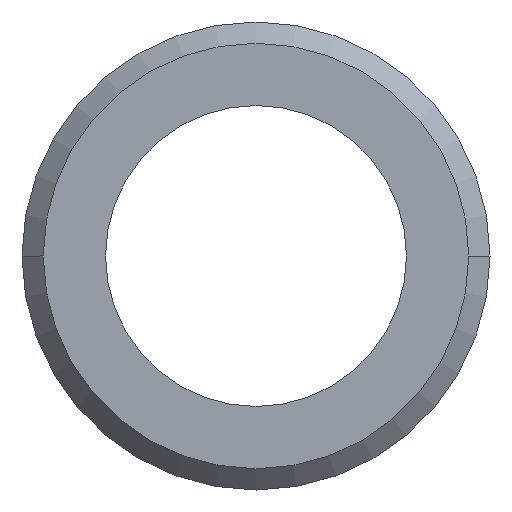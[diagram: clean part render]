
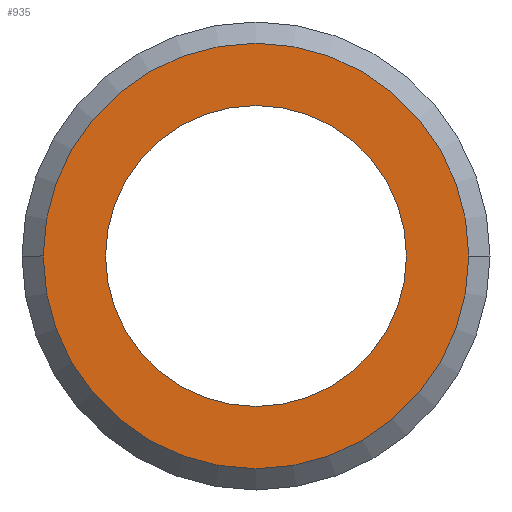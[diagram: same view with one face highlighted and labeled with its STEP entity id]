
A CAD part, left-side view. The second image highlights one B-rep face of the part: STEP entity #935.
In plain terms, the highlighted planar face has unit normal (-1, 0, 0).
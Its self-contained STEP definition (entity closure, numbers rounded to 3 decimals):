
#143=CARTESIAN_POINT('',(-12.5,8.5,0.0));
#144=VERTEX_POINT('',#143);
#160=CARTESIAN_POINT('',(-12.5,-8.5,0.));
#161=VERTEX_POINT('',#160);
#168=CARTESIAN_POINT('',(-12.5,0.0,0.0));
#169=DIRECTION('',(1.0,0.0,0.0));
#170=DIRECTION('',(0.0,1.0,0.0));
#171=AXIS2_PLACEMENT_3D('',#168,#169,#170);
#172=CIRCLE('',#171,8.5);
#173=EDGE_CURVE('',#144,#161,#172,.T.);
#373=CARTESIAN_POINT('',(-12.5,-12.02,0.0));
#374=VERTEX_POINT('',#373);
#390=CARTESIAN_POINT('',(-12.5,12.02,0.));
#391=VERTEX_POINT('',#390);
#398=CARTESIAN_POINT('',(-12.5,0.0,0.0));
#399=DIRECTION('',(1.0,0.0,0.0));
#400=DIRECTION('',(0.0,-1.0,0.0));
#401=AXIS2_PLACEMENT_3D('',#398,#399,#400);
#402=CIRCLE('',#401,12.02);
#403=EDGE_CURVE('',#391,#374,#402,.T.);
#904=CARTESIAN_POINT('',(-12.5,0.0,0.0));
#905=DIRECTION('',(1.0,0.0,0.0));
#906=DIRECTION('',(0.0,-1.0,0.0));
#907=AXIS2_PLACEMENT_3D('',#904,#905,#906);
#908=CIRCLE('',#907,12.02);
#909=EDGE_CURVE('',#374,#391,#908,.T.);
#916=CARTESIAN_POINT('',(-12.5,10.86,0.0));
#917=DIRECTION('',(-1.0,0.0,0.0));
#918=DIRECTION('',(0.0,0.0,1.0));
#919=AXIS2_PLACEMENT_3D('',#916,#917,#918);
#920=PLANE('',#919);
#921=ORIENTED_EDGE('',*,*,#403,.F.);
#922=ORIENTED_EDGE('',*,*,#909,.F.);
#923=EDGE_LOOP('',(#921,#922));
#924=FACE_OUTER_BOUND('',#923,.T.);
#925=ORIENTED_EDGE('',*,*,#173,.T.);
#926=CARTESIAN_POINT('',(-12.5,0.0,0.0));
#927=DIRECTION('',(1.0,0.0,0.0));
#928=DIRECTION('',(0.0,1.0,0.0));
#929=AXIS2_PLACEMENT_3D('',#926,#927,#928);
#930=CIRCLE('',#929,8.5);
#931=EDGE_CURVE('',#161,#144,#930,.T.);
#932=ORIENTED_EDGE('',*,*,#931,.T.);
#933=EDGE_LOOP('',(#925,#932));
#934=FACE_BOUND('',#933,.T.);
#935=ADVANCED_FACE('',(#924,#934),#920,.T.);
